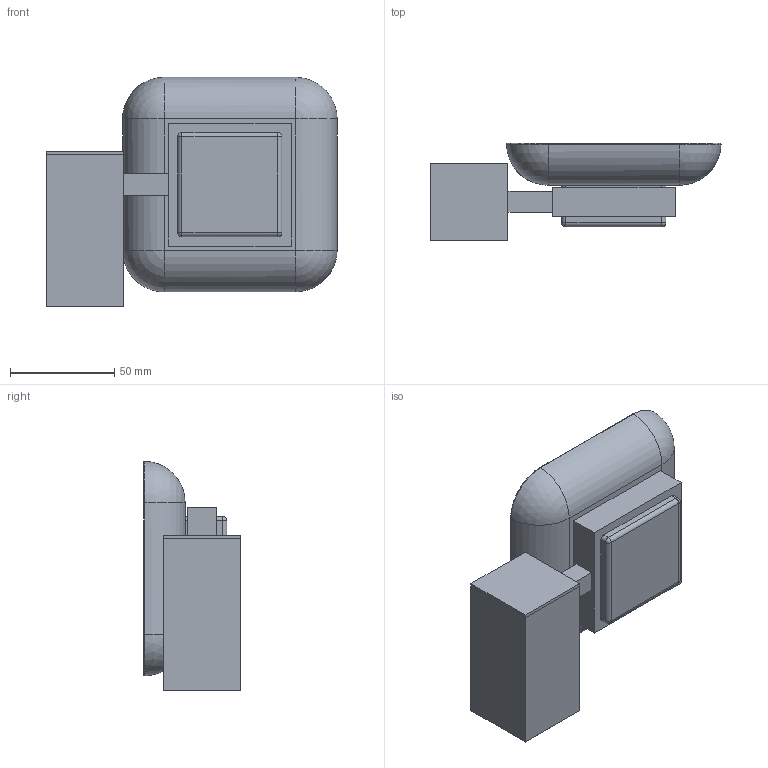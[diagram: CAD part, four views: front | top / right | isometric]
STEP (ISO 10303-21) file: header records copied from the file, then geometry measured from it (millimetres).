
FILE_DESCRIPTION (( 'STEP AP203' ), '1' );
FILE_NAME ('12126210.STEP', '2022-09-28T16:18:54', ( '' ), ( '' ), 'SwSTEP 2.0', 'SolidWorks 2018', '' );
FILE_SCHEMA (( 'CONFIG_CONTROL_DESIGN' ));
Length unit declared in the file: millimetre
Products named in the file (1): 12126210
Bounding box: 139.28 x 46.55 x 110.09 mm (x, y, z)
Surface area: 48215.9 mm2 (no closed solid volume)
Topology: 0 solids, 2 shells, 88 faces, 208 edges, 116 vertices
Faces by surface type: plane 40, cylinder 28, sphere 12, torus 8
Entity records: 3602 total; most frequent: CARTESIAN_POINT 1973, ORIENTED_EDGE 384, EDGE_CURVE 196, DIRECTION 190, B_SPLINE_CURVE_WITH_KNOTS 184, VERTEX_POINT 116, EDGE_LOOP 94, AXIS2_PLACEMENT_3D 89
